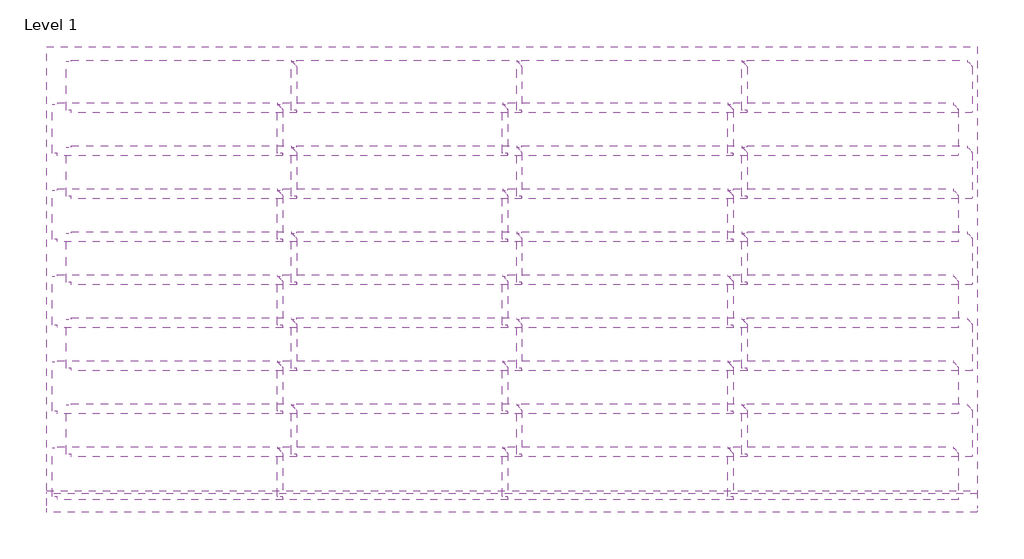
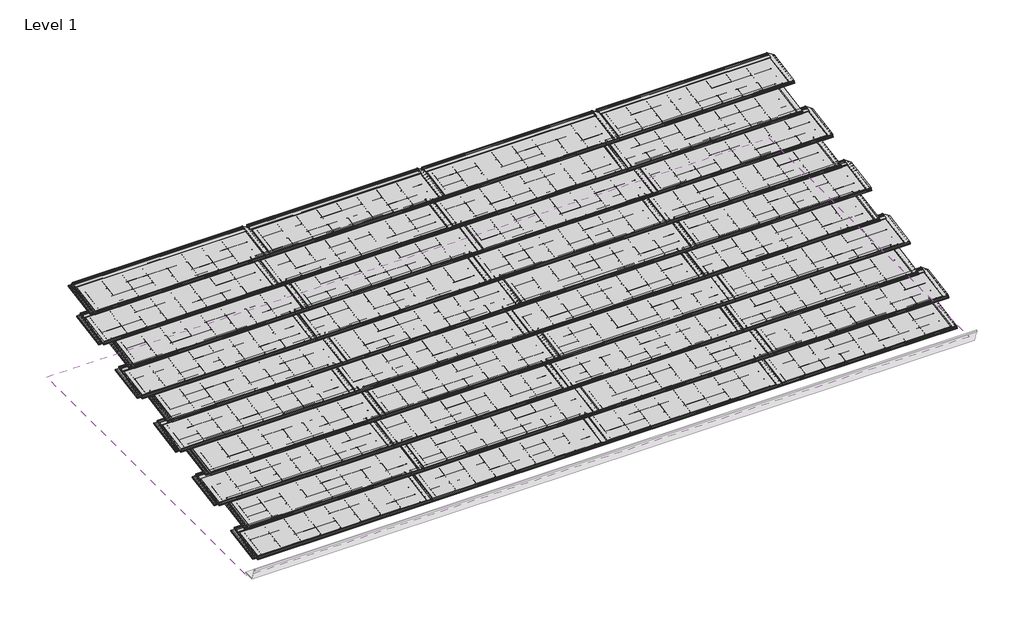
# One storey: 40 proxies, 1 pipe segment, 1 roof.
"""IFC4 building model written with IfcOpenShell, lengths in millimetres."""

from ifc_helpers import new_model, si_unit, frame, origin, place, context, project, spatial, polyline, outline, extrude, transform, mapped, element, save
from components import volt_p3_5_solar_tile_volt_p3_5_solar_tile_fd20a2fa

model = new_model("IFC4")

# Units and contexts
model_context = context("Model", 3, world=origin())
ifc_project = project(units=[si_unit("LENGTHUNIT", "METRE", prefix="MILLI")], contexts=[model_context])

# Site, building, storey
site = spatial("IfcSite", under=ifc_project)
building = spatial("IfcBuilding", under=site)
storey = spatial("IfcBuildingStorey", under=building, Name="Level 1", Elevation=3000.0)

# Proxies
placement = place(None, origin())
volt_p3_5_solar_tile_volt_p3_5_solar_tile_shape = volt_p3_5_solar_tile_volt_p3_5_solar_tile_fd20a2fa(model_context)
element("IfcBuildingElementProxy", 1, Name="Volt_P3.5 Solar Tile : Volt_P3.5 Solar Tile", ObjectType="Volt_P3.5 Solar Tile : Volt_P3.5 Solar Tile", at=placement, inside=storey, context=model_context, shape_type="MappedRepresentation", body=[
    mapped(volt_p3_5_solar_tile_volt_p3_5_solar_tile_shape, transform((12630.5983824, 2956.5731634, 5262.1619526), x_axis=(1.0, 0.0, 0.0), y_axis=(0.0, 0.8660254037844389, 0.49999999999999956), z_axis=(0.0, -0.49999999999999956, 0.8660254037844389))),
])
element("IfcBuildingElementProxy", 2, Name="Volt_P3.5 Solar Tile : Volt_P3.5 Solar Tile", ObjectType="Volt_P3.5 Solar Tile : Volt_P3.5 Solar Tile", at=placement, inside=storey, context=model_context, shape_type="MappedRepresentation", body=[
    mapped(volt_p3_5_solar_tile_volt_p3_5_solar_tile_shape, transform((12746.5983824, 3311.877802, 5349.0804417), x_axis=(1.0, 0.0, 0.0), y_axis=(0.0, 0.8660254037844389, 0.49999999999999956), z_axis=(0.0, -0.49999999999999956, 0.8660254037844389))),
])
element("IfcBuildingElementProxy", 3, Name="Volt_P3.5 Solar Tile : Volt_P3.5 Solar Tile", ObjectType="Volt_P3.5 Solar Tile : Volt_P3.5 Solar Tile", at=placement, inside=storey, context=model_context, shape_type="MappedRepresentation", body=[
    mapped(volt_p3_5_solar_tile_volt_p3_5_solar_tile_shape, transform((14493.5983904, 2956.5731634, 5262.1619526), x_axis=(1.0, 0.0, 0.0), y_axis=(0.0, 0.8660254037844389, 0.49999999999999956), z_axis=(0.0, -0.49999999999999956, 0.8660254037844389))),
])
element("IfcBuildingElementProxy", 4, Name="Volt_P3.5 Solar Tile : Volt_P3.5 Solar Tile", ObjectType="Volt_P3.5 Solar Tile : Volt_P3.5 Solar Tile", at=placement, inside=storey, context=model_context, shape_type="MappedRepresentation", body=[
    mapped(volt_p3_5_solar_tile_volt_p3_5_solar_tile_shape, transform((14609.5985178, 3311.877802, 5349.0804417), x_axis=(1.0, 0.0, 0.0), y_axis=(0.0, 0.8660254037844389, 0.49999999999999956), z_axis=(0.0, -0.49999999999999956, 0.8660254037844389))),
])
element("IfcBuildingElementProxy", 5, Name="Volt_P3.5 Solar Tile : Volt_P3.5 Solar Tile", ObjectType="Volt_P3.5 Solar Tile : Volt_P3.5 Solar Tile", at=placement, inside=storey, context=model_context, shape_type="MappedRepresentation", body=[
    mapped(volt_p3_5_solar_tile_volt_p3_5_solar_tile_shape, transform((16356.5985258, 2956.5731634, 5262.1619526), x_axis=(1.0, 0.0, 0.0), y_axis=(0.0, 0.8660254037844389, 0.49999999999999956), z_axis=(0.0, -0.49999999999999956, 0.8660254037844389))),
])
element("IfcBuildingElementProxy", 6, Name="Volt_P3.5 Solar Tile : Volt_P3.5 Solar Tile", ObjectType="Volt_P3.5 Solar Tile : Volt_P3.5 Solar Tile", at=placement, inside=storey, context=model_context, shape_type="MappedRepresentation", body=[
    mapped(volt_p3_5_solar_tile_volt_p3_5_solar_tile_shape, transform((16472.5985258, 3311.877802, 5349.0804417), x_axis=(1.0, 0.0, 0.0), y_axis=(0.0, 0.8660254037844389, 0.49999999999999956), z_axis=(0.0, -0.49999999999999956, 0.8660254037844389))),
])
element("IfcBuildingElementProxy", 7, Name="Volt_P3.5 Solar Tile : Volt_P3.5 Solar Tile", ObjectType="Volt_P3.5 Solar Tile : Volt_P3.5 Solar Tile", at=placement, inside=storey, context=model_context, shape_type="MappedRepresentation", body=[
    mapped(volt_p3_5_solar_tile_volt_p3_5_solar_tile_shape, transform((18219.798143, 2956.5731634, 5262.1619526), x_axis=(1.0, 0.0, 0.0), y_axis=(0.0, 0.8660254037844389, 0.49999999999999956), z_axis=(0.0, -0.49999999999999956, 0.8660254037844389))),
])
element("IfcBuildingElementProxy", 8, Name="Volt_P3.5 Solar Tile : Volt_P3.5 Solar Tile", ObjectType="Volt_P3.5 Solar Tile : Volt_P3.5 Solar Tile", at=placement, inside=storey, context=model_context, shape_type="MappedRepresentation", body=[
    mapped(volt_p3_5_solar_tile_volt_p3_5_solar_tile_shape, transform((18335.7982704, 3311.877802, 5349.0804417), x_axis=(1.0, 0.0, 0.0), y_axis=(0.0, 0.8660254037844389, 0.49999999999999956), z_axis=(0.0, -0.49999999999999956, 0.8660254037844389))),
])
element("IfcBuildingElementProxy", 9, Name="Volt_P3.5 Solar Tile : Volt_P3.5 Solar Tile", ObjectType="Volt_P3.5 Solar Tile : Volt_P3.5 Solar Tile", at=placement, inside=storey, context=model_context, shape_type="MappedRepresentation", body=[
    mapped(volt_p3_5_solar_tile_volt_p3_5_solar_tile_shape, transform((12630.5983824, 3667.4658622, 5436.0489347), x_axis=(1.0, 0.0, 0.0), y_axis=(0.0, 0.8660254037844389, 0.49999999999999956), z_axis=(0.0, -0.49999999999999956, 0.8660254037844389))),
])
element("IfcBuildingElementProxy", 10, Name="Volt_P3.5 Solar Tile : Volt_P3.5 Solar Tile", ObjectType="Volt_P3.5 Solar Tile : Volt_P3.5 Solar Tile", at=placement, inside=storey, context=model_context, shape_type="MappedRepresentation", body=[
    mapped(volt_p3_5_solar_tile_volt_p3_5_solar_tile_shape, transform((12746.5983824, 4022.7705008, 5522.9674239), x_axis=(1.0, 0.0, 0.0), y_axis=(0.0, 0.8660254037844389, 0.49999999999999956), z_axis=(0.0, -0.49999999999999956, 0.8660254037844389))),
])
element("IfcBuildingElementProxy", 11, Name="Volt_P3.5 Solar Tile : Volt_P3.5 Solar Tile", ObjectType="Volt_P3.5 Solar Tile : Volt_P3.5 Solar Tile", at=placement, inside=storey, context=model_context, shape_type="MappedRepresentation", body=[
    mapped(volt_p3_5_solar_tile_volt_p3_5_solar_tile_shape, transform((14493.5983904, 3667.4658622, 5436.0489347), x_axis=(1.0, 0.0, 0.0), y_axis=(0.0, 0.8660254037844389, 0.49999999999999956), z_axis=(0.0, -0.49999999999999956, 0.8660254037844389))),
])
element("IfcBuildingElementProxy", 12, Name="Volt_P3.5 Solar Tile : Volt_P3.5 Solar Tile", ObjectType="Volt_P3.5 Solar Tile : Volt_P3.5 Solar Tile", at=placement, inside=storey, context=model_context, shape_type="MappedRepresentation", body=[
    mapped(volt_p3_5_solar_tile_volt_p3_5_solar_tile_shape, transform((14609.5985178, 4022.7705008, 5522.9674239), x_axis=(1.0, 0.0, 0.0), y_axis=(0.0, 0.8660254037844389, 0.49999999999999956), z_axis=(0.0, -0.49999999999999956, 0.8660254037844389))),
])
element("IfcBuildingElementProxy", 13, Name="Volt_P3.5 Solar Tile : Volt_P3.5 Solar Tile", ObjectType="Volt_P3.5 Solar Tile : Volt_P3.5 Solar Tile", at=placement, inside=storey, context=model_context, shape_type="MappedRepresentation", body=[
    mapped(volt_p3_5_solar_tile_volt_p3_5_solar_tile_shape, transform((16356.5985258, 3667.4658622, 5436.0489347), x_axis=(1.0, 0.0, 0.0), y_axis=(0.0, 0.8660254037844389, 0.49999999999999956), z_axis=(0.0, -0.49999999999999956, 0.8660254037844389))),
])
element("IfcBuildingElementProxy", 14, Name="Volt_P3.5 Solar Tile : Volt_P3.5 Solar Tile", ObjectType="Volt_P3.5 Solar Tile : Volt_P3.5 Solar Tile", at=placement, inside=storey, context=model_context, shape_type="MappedRepresentation", body=[
    mapped(volt_p3_5_solar_tile_volt_p3_5_solar_tile_shape, transform((16472.5985258, 4022.7705008, 5522.9674239), x_axis=(1.0, 0.0, 0.0), y_axis=(0.0, 0.8660254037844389, 0.49999999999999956), z_axis=(0.0, -0.49999999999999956, 0.8660254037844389))),
])
element("IfcBuildingElementProxy", 15, Name="Volt_P3.5 Solar Tile : Volt_P3.5 Solar Tile", ObjectType="Volt_P3.5 Solar Tile : Volt_P3.5 Solar Tile", at=placement, inside=storey, context=model_context, shape_type="MappedRepresentation", body=[
    mapped(volt_p3_5_solar_tile_volt_p3_5_solar_tile_shape, transform((18219.798143, 3667.4658622, 5436.0489347), x_axis=(1.0, 0.0, 0.0), y_axis=(0.0, 0.8660254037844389, 0.49999999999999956), z_axis=(0.0, -0.49999999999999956, 0.8660254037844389))),
])
element("IfcBuildingElementProxy", 16, Name="Volt_P3.5 Solar Tile : Volt_P3.5 Solar Tile", ObjectType="Volt_P3.5 Solar Tile : Volt_P3.5 Solar Tile", at=placement, inside=storey, context=model_context, shape_type="MappedRepresentation", body=[
    mapped(volt_p3_5_solar_tile_volt_p3_5_solar_tile_shape, transform((18335.7982704, 4022.7705008, 5522.9674239), x_axis=(1.0, 0.0, 0.0), y_axis=(0.0, 0.8660254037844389, 0.49999999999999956), z_axis=(0.0, -0.49999999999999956, 0.8660254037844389))),
])
element("IfcBuildingElementProxy", 17, Name="Volt_P3.5 Solar Tile : Volt_P3.5 Solar Tile", ObjectType="Volt_P3.5 Solar Tile : Volt_P3.5 Solar Tile", at=placement, inside=storey, context=model_context, shape_type="MappedRepresentation", body=[
    mapped(volt_p3_5_solar_tile_volt_p3_5_solar_tile_shape, transform((12630.5983824, 4378.358561, 5609.9359168), x_axis=(1.0, 0.0, 0.0), y_axis=(0.0, 0.8660254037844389, 0.49999999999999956), z_axis=(0.0, -0.49999999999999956, 0.8660254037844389))),
])
element("IfcBuildingElementProxy", 18, Name="Volt_P3.5 Solar Tile : Volt_P3.5 Solar Tile", ObjectType="Volt_P3.5 Solar Tile : Volt_P3.5 Solar Tile", at=placement, inside=storey, context=model_context, shape_type="MappedRepresentation", body=[
    mapped(volt_p3_5_solar_tile_volt_p3_5_solar_tile_shape, transform((12746.5983824, 4733.6631995, 5696.854406), x_axis=(1.0, 0.0, 0.0), y_axis=(0.0, 0.8660254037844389, 0.49999999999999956), z_axis=(0.0, -0.49999999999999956, 0.8660254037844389))),
])
element("IfcBuildingElementProxy", 19, Name="Volt_P3.5 Solar Tile : Volt_P3.5 Solar Tile", ObjectType="Volt_P3.5 Solar Tile : Volt_P3.5 Solar Tile", at=placement, inside=storey, context=model_context, shape_type="MappedRepresentation", body=[
    mapped(volt_p3_5_solar_tile_volt_p3_5_solar_tile_shape, transform((14493.5983904, 4378.358561, 5609.9359168), x_axis=(1.0, 0.0, 0.0), y_axis=(0.0, 0.8660254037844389, 0.49999999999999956), z_axis=(0.0, -0.49999999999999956, 0.8660254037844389))),
])
element("IfcBuildingElementProxy", 20, Name="Volt_P3.5 Solar Tile : Volt_P3.5 Solar Tile", ObjectType="Volt_P3.5 Solar Tile : Volt_P3.5 Solar Tile", at=placement, inside=storey, context=model_context, shape_type="MappedRepresentation", body=[
    mapped(volt_p3_5_solar_tile_volt_p3_5_solar_tile_shape, transform((14609.5985178, 4733.6631995, 5696.854406), x_axis=(1.0, 0.0, 0.0), y_axis=(0.0, 0.8660254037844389, 0.49999999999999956), z_axis=(0.0, -0.49999999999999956, 0.8660254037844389))),
])
element("IfcBuildingElementProxy", 21, Name="Volt_P3.5 Solar Tile : Volt_P3.5 Solar Tile", ObjectType="Volt_P3.5 Solar Tile : Volt_P3.5 Solar Tile", at=placement, inside=storey, context=model_context, shape_type="MappedRepresentation", body=[
    mapped(volt_p3_5_solar_tile_volt_p3_5_solar_tile_shape, transform((16356.5985258, 4378.358561, 5609.9359168), x_axis=(1.0, 0.0, 0.0), y_axis=(0.0, 0.8660254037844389, 0.49999999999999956), z_axis=(0.0, -0.49999999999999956, 0.8660254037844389))),
])
element("IfcBuildingElementProxy", 22, Name="Volt_P3.5 Solar Tile : Volt_P3.5 Solar Tile", ObjectType="Volt_P3.5 Solar Tile : Volt_P3.5 Solar Tile", at=placement, inside=storey, context=model_context, shape_type="MappedRepresentation", body=[
    mapped(volt_p3_5_solar_tile_volt_p3_5_solar_tile_shape, transform((16472.5985258, 4733.6631995, 5696.854406), x_axis=(1.0, 0.0, 0.0), y_axis=(0.0, 0.8660254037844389, 0.49999999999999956), z_axis=(0.0, -0.49999999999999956, 0.8660254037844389))),
])
element("IfcBuildingElementProxy", 23, Name="Volt_P3.5 Solar Tile : Volt_P3.5 Solar Tile", ObjectType="Volt_P3.5 Solar Tile : Volt_P3.5 Solar Tile", at=placement, inside=storey, context=model_context, shape_type="MappedRepresentation", body=[
    mapped(volt_p3_5_solar_tile_volt_p3_5_solar_tile_shape, transform((18219.798143, 4378.358561, 5609.9359168), x_axis=(1.0, 0.0, 0.0), y_axis=(0.0, 0.8660254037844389, 0.49999999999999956), z_axis=(0.0, -0.49999999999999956, 0.8660254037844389))),
])
element("IfcBuildingElementProxy", 24, Name="Volt_P3.5 Solar Tile : Volt_P3.5 Solar Tile", ObjectType="Volt_P3.5 Solar Tile : Volt_P3.5 Solar Tile", at=placement, inside=storey, context=model_context, shape_type="MappedRepresentation", body=[
    mapped(volt_p3_5_solar_tile_volt_p3_5_solar_tile_shape, transform((18335.7982704, 4733.6631995, 5696.854406), x_axis=(1.0, 0.0, 0.0), y_axis=(0.0, 0.8660254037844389, 0.49999999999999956), z_axis=(0.0, -0.49999999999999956, 0.8660254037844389))),
])
element("IfcBuildingElementProxy", 25, Name="Volt_P3.5 Solar Tile : Volt_P3.5 Solar Tile", ObjectType="Volt_P3.5 Solar Tile : Volt_P3.5 Solar Tile", at=placement, inside=storey, context=model_context, shape_type="MappedRepresentation", body=[
    mapped(volt_p3_5_solar_tile_volt_p3_5_solar_tile_shape, transform((12630.5983824, 5089.2512597, 5783.8228989), x_axis=(1.0, 0.0, 0.0), y_axis=(0.0, 0.8660254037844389, 0.49999999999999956), z_axis=(0.0, -0.49999999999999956, 0.8660254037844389))),
])
element("IfcBuildingElementProxy", 26, Name="Volt_P3.5 Solar Tile : Volt_P3.5 Solar Tile", ObjectType="Volt_P3.5 Solar Tile : Volt_P3.5 Solar Tile", at=placement, inside=storey, context=model_context, shape_type="MappedRepresentation", body=[
    mapped(volt_p3_5_solar_tile_volt_p3_5_solar_tile_shape, transform((12746.5983824, 5444.5558983, 5870.7413881), x_axis=(1.0, 0.0, 0.0), y_axis=(0.0, 0.8660254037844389, 0.49999999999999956), z_axis=(0.0, -0.49999999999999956, 0.8660254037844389))),
])
element("IfcBuildingElementProxy", 27, Name="Volt_P3.5 Solar Tile : Volt_P3.5 Solar Tile", ObjectType="Volt_P3.5 Solar Tile : Volt_P3.5 Solar Tile", at=placement, inside=storey, context=model_context, shape_type="MappedRepresentation", body=[
    mapped(volt_p3_5_solar_tile_volt_p3_5_solar_tile_shape, transform((14493.5983904, 5089.2512597, 5783.8228989), x_axis=(1.0, 0.0, 0.0), y_axis=(0.0, 0.8660254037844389, 0.49999999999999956), z_axis=(0.0, -0.49999999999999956, 0.8660254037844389))),
])
element("IfcBuildingElementProxy", 28, Name="Volt_P3.5 Solar Tile : Volt_P3.5 Solar Tile", ObjectType="Volt_P3.5 Solar Tile : Volt_P3.5 Solar Tile", at=placement, inside=storey, context=model_context, shape_type="MappedRepresentation", body=[
    mapped(volt_p3_5_solar_tile_volt_p3_5_solar_tile_shape, transform((14609.5985178, 5444.5558983, 5870.7413881), x_axis=(1.0, 0.0, 0.0), y_axis=(0.0, 0.8660254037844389, 0.49999999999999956), z_axis=(0.0, -0.49999999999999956, 0.8660254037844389))),
])
element("IfcBuildingElementProxy", 29, Name="Volt_P3.5 Solar Tile : Volt_P3.5 Solar Tile", ObjectType="Volt_P3.5 Solar Tile : Volt_P3.5 Solar Tile", at=placement, inside=storey, context=model_context, shape_type="MappedRepresentation", body=[
    mapped(volt_p3_5_solar_tile_volt_p3_5_solar_tile_shape, transform((16356.5985258, 5089.2512597, 5783.8228989), x_axis=(1.0, 0.0, 0.0), y_axis=(0.0, 0.8660254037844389, 0.49999999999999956), z_axis=(0.0, -0.49999999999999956, 0.8660254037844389))),
])
element("IfcBuildingElementProxy", 30, Name="Volt_P3.5 Solar Tile : Volt_P3.5 Solar Tile", ObjectType="Volt_P3.5 Solar Tile : Volt_P3.5 Solar Tile", at=placement, inside=storey, context=model_context, shape_type="MappedRepresentation", body=[
    mapped(volt_p3_5_solar_tile_volt_p3_5_solar_tile_shape, transform((16472.5985258, 5444.5558983, 5870.7413881), x_axis=(1.0, 0.0, 0.0), y_axis=(0.0, 0.8660254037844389, 0.49999999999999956), z_axis=(0.0, -0.49999999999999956, 0.8660254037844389))),
])
element("IfcBuildingElementProxy", 31, Name="Volt_P3.5 Solar Tile : Volt_P3.5 Solar Tile", ObjectType="Volt_P3.5 Solar Tile : Volt_P3.5 Solar Tile", at=placement, inside=storey, context=model_context, shape_type="MappedRepresentation", body=[
    mapped(volt_p3_5_solar_tile_volt_p3_5_solar_tile_shape, transform((18219.798143, 5089.2512597, 5783.8228989), x_axis=(1.0, 0.0, 0.0), y_axis=(0.0, 0.8660254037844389, 0.49999999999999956), z_axis=(0.0, -0.49999999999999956, 0.8660254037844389))),
])
element("IfcBuildingElementProxy", 32, Name="Volt_P3.5 Solar Tile : Volt_P3.5 Solar Tile", ObjectType="Volt_P3.5 Solar Tile : Volt_P3.5 Solar Tile", at=placement, inside=storey, context=model_context, shape_type="MappedRepresentation", body=[
    mapped(volt_p3_5_solar_tile_volt_p3_5_solar_tile_shape, transform((18335.7982704, 5444.5558983, 5870.7413881), x_axis=(1.0, 0.0, 0.0), y_axis=(0.0, 0.8660254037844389, 0.49999999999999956), z_axis=(0.0, -0.49999999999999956, 0.8660254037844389))),
])
element("IfcBuildingElementProxy", 33, Name="Volt_P3.5 Solar Tile : Volt_P3.5 Solar Tile", ObjectType="Volt_P3.5 Solar Tile : Volt_P3.5 Solar Tile", at=placement, inside=storey, context=model_context, shape_type="MappedRepresentation", body=[
    mapped(volt_p3_5_solar_tile_volt_p3_5_solar_tile_shape, transform((12630.5983824, 5800.1439585, 5957.709881), x_axis=(1.0, 0.0, 0.0), y_axis=(0.0, 0.8660254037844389, 0.49999999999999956), z_axis=(0.0, -0.49999999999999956, 0.8660254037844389))),
])
element("IfcBuildingElementProxy", 34, Name="Volt_P3.5 Solar Tile : Volt_P3.5 Solar Tile", ObjectType="Volt_P3.5 Solar Tile : Volt_P3.5 Solar Tile", at=placement, inside=storey, context=model_context, shape_type="MappedRepresentation", body=[
    mapped(volt_p3_5_solar_tile_volt_p3_5_solar_tile_shape, transform((12746.5983824, 6155.4485971, 6044.6283702), x_axis=(1.0, 0.0, 0.0), y_axis=(0.0, 0.8660254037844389, 0.49999999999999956), z_axis=(0.0, -0.49999999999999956, 0.8660254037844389))),
])
element("IfcBuildingElementProxy", 35, Name="Volt_P3.5 Solar Tile : Volt_P3.5 Solar Tile", ObjectType="Volt_P3.5 Solar Tile : Volt_P3.5 Solar Tile", at=placement, inside=storey, context=model_context, shape_type="MappedRepresentation", body=[
    mapped(volt_p3_5_solar_tile_volt_p3_5_solar_tile_shape, transform((14493.5983904, 5800.1439585, 5957.709881), x_axis=(1.0, 0.0, 0.0), y_axis=(0.0, 0.8660254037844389, 0.49999999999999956), z_axis=(0.0, -0.49999999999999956, 0.8660254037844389))),
])
element("IfcBuildingElementProxy", 36, Name="Volt_P3.5 Solar Tile : Volt_P3.5 Solar Tile", ObjectType="Volt_P3.5 Solar Tile : Volt_P3.5 Solar Tile", at=placement, inside=storey, context=model_context, shape_type="MappedRepresentation", body=[
    mapped(volt_p3_5_solar_tile_volt_p3_5_solar_tile_shape, transform((14609.5985178, 6155.4485971, 6044.6283702), x_axis=(1.0, 0.0, 0.0), y_axis=(0.0, 0.8660254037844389, 0.49999999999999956), z_axis=(0.0, -0.49999999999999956, 0.8660254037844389))),
])
element("IfcBuildingElementProxy", 37, Name="Volt_P3.5 Solar Tile : Volt_P3.5 Solar Tile", ObjectType="Volt_P3.5 Solar Tile : Volt_P3.5 Solar Tile", at=placement, inside=storey, context=model_context, shape_type="MappedRepresentation", body=[
    mapped(volt_p3_5_solar_tile_volt_p3_5_solar_tile_shape, transform((16356.5985258, 5800.1439585, 5957.709881), x_axis=(1.0, 0.0, 0.0), y_axis=(0.0, 0.8660254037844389, 0.49999999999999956), z_axis=(0.0, -0.49999999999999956, 0.8660254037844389))),
])
element("IfcBuildingElementProxy", 38, Name="Volt_P3.5 Solar Tile : Volt_P3.5 Solar Tile", ObjectType="Volt_P3.5 Solar Tile : Volt_P3.5 Solar Tile", at=placement, inside=storey, context=model_context, shape_type="MappedRepresentation", body=[
    mapped(volt_p3_5_solar_tile_volt_p3_5_solar_tile_shape, transform((16472.5985258, 6155.4485971, 6044.6283702), x_axis=(1.0, 0.0, 0.0), y_axis=(0.0, 0.8660254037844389, 0.49999999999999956), z_axis=(0.0, -0.49999999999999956, 0.8660254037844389))),
])
element("IfcBuildingElementProxy", 39, Name="Volt_P3.5 Solar Tile : Volt_P3.5 Solar Tile", ObjectType="Volt_P3.5 Solar Tile : Volt_P3.5 Solar Tile", at=placement, inside=storey, context=model_context, shape_type="MappedRepresentation", body=[
    mapped(volt_p3_5_solar_tile_volt_p3_5_solar_tile_shape, transform((18219.798143, 5800.1439585, 5957.709881), x_axis=(1.0, 0.0, 0.0), y_axis=(0.0, 0.8660254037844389, 0.49999999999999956), z_axis=(0.0, -0.49999999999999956, 0.8660254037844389))),
])
element("IfcBuildingElementProxy", 40, Name="Volt_P3.5 Solar Tile : Volt_P3.5 Solar Tile", ObjectType="Volt_P3.5 Solar Tile : Volt_P3.5 Solar Tile", at=placement, inside=storey, context=model_context, shape_type="MappedRepresentation", body=[
    mapped(volt_p3_5_solar_tile_volt_p3_5_solar_tile_shape, transform((18335.7982704, 6155.4485971, 6044.6283702), x_axis=(1.0, 0.0, 0.0), y_axis=(0.0, 0.8660254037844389, 0.49999999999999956), z_axis=(0.0, -0.49999999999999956, 0.8660254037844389))),
])

# Pipe segment
element("IfcPipeSegment", 41, ObjectType="Standard", at=placement, inside=storey, context=model_context, shape_type="SweptSolid", body=[
    extrude(outline(polyline([(3042.0843425, 5183.0568405), (3003.9843425, 5307.5690731), (2991.2843425, 5307.5690731), (2991.2843425, 5320.2690731), (3003.9843425, 5320.2690731), (3003.9843425, 5317.0940731), (2994.4593425, 5317.0940731), (2994.4593425, 5310.7440731), (3006.3466398, 5310.7440731), (3044.4466398, 5186.2318405), (3166.2843425, 5186.2318405), (3166.2843425, 5183.0568405), (3042.0843425, 5183.0568405)])), frame((11630.5983824, 0.0, 0.0), z_axis=(1.0, 0.0, 0.0), x_axis=(0.0, 1.0, 0.0)), (0.0, 0.0, 1.0), 7700.0),
])

# Roof
element("IfcRoof", 42, ObjectType="Roof_Generic-125mm", at=placement, inside=storey, context=model_context, shape_type="SweptSolid", body=[
    extrude(outline(polyline([(6841.4676603, 6064.4525598), (3171.2843425, 5162.9690731), (3141.4676603, 5284.3608581), (6841.4676603, 6193.1680244), (6841.4676603, 6064.4525598)])), frame((11630.5983824, 0.0, 0.0), z_axis=(1.0, 0.0, 0.0), x_axis=(0.0, 1.0, 0.0)), (0.0, 0.0, 1.0), 7700.0),
])

save(model, "model.ifc")
